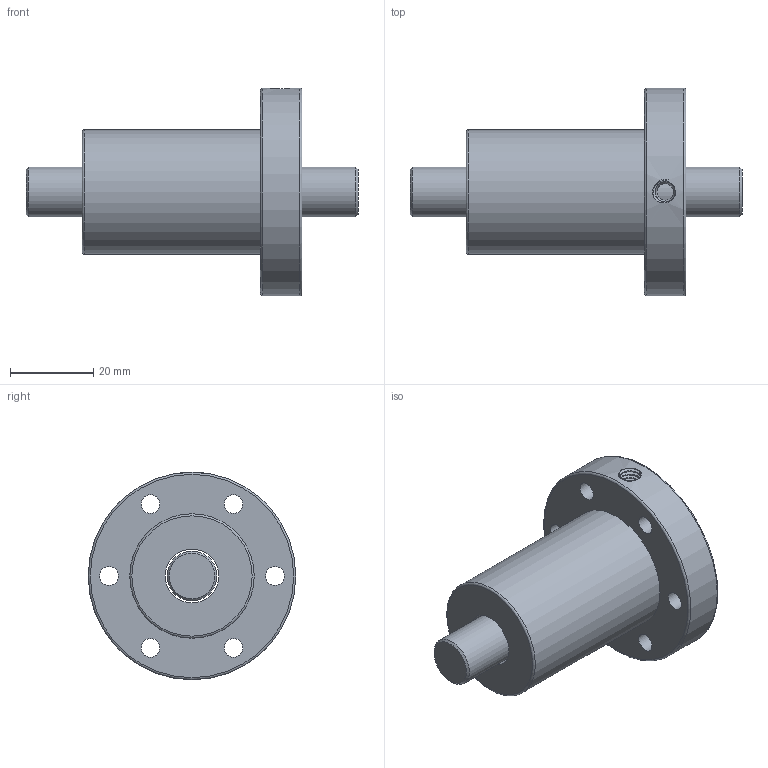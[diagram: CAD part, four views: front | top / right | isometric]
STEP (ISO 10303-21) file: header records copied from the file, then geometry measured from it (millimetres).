
FILE_DESCRIPTION(/* description */ ('Unknown','CAx-IF Rec.Pracs.---Representation and Presentation of Product Manufacturing Information (PMI)---4.0---2014-10-13','CAx-IF Rec.Pracs.---3D Tessellated Geometry---0.4---2014-09-14','2;1'),/* implementation_level */ '2;1');
FILE_NAME(/* name */ 'SFV01210-2.7',/* time_stamp */ '2020-12-08T09:34:05+08:00',/* author */ ('Unknown'),/* organization */ ('Unknown'),/* preprocessor_version */ 'ST-DEVELOPER v16.7',/* originating_system */ 'Solid Edge',/* authorisation */ 'Unknown');
FILE_SCHEMA (('AP242_MANAGED_MODEL_BASED_3D_ENGINEERING_MIM_LF { 1 0 10303 442 1 1 4 }'));
Length unit declared in the file: millimetre
Products named in the file (1): SFV01210-2.7
Bounding box: 80 x 50 x 50 mm (x, y, z)
Volume: 49812.5 mm3; surface area: 15857.4 mm2
Topology: 2 solids, 2 shells, 39 faces, 77 edges, 49 vertices
Faces by surface type: cylinder 19, plane 12, cone 3, torus 3, bspline 2
Full cylindrical faces by diameter (mm): 4 x1, 4.5 x6, 8 x6, 12 x1, 13 x1, 30 x1, 50 x1
Entity records: 3269 total; most frequent: CARTESIAN_POINT 2450, DIRECTION 164, ORIENTED_EDGE 104, EDGE_LOOP 85, FACE_BOUND 85, AXIS2_PLACEMENT_3D 83, EDGE_CURVE 52, VERTEX_POINT 47
